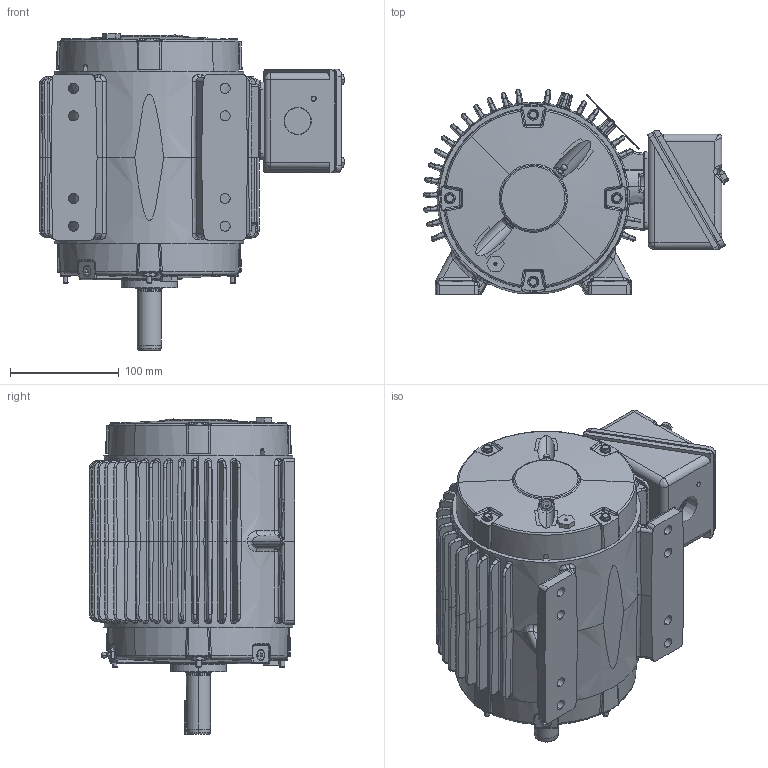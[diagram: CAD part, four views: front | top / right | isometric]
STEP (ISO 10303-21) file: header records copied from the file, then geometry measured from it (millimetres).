
FILE_DESCRIPTION (( 'STEP AP203' ), '1' );
FILE_NAME ('104326-625_Reva.STEP', '2021-04-19T05:08:45', ( '' ), ( '' ), 'SwSTEP 2.0', 'SolidWorks 2018', '' );
FILE_SCHEMA (( 'CONFIG_CONTROL_DESIGN' ));
Products named in the file (1): 104326-625_Reva
Bounding box: 281.23 x 188.89 x 291.48 mm (x, y, z)
Volume: 1965178.5 mm3; surface area: 627386.5 mm2
Topology: 33 solids, 33 shells, 2816 faces, 6957 edges, 4192 vertices
Faces by surface type: bspline 1032, plane 592, cylinder 553, cone 296, torus 240, sphere 103
Entity records: 129663 total; most frequent: CARTESIAN_POINT 72059, ORIENTED_EDGE 13734, DIRECTION 9867, EDGE_CURVE 6867, VERTEX_POINT 4172, AXIS2_PLACEMENT_3D 4113, EDGE_LOOP 2969, FACE_OUTER_BOUND 2816
